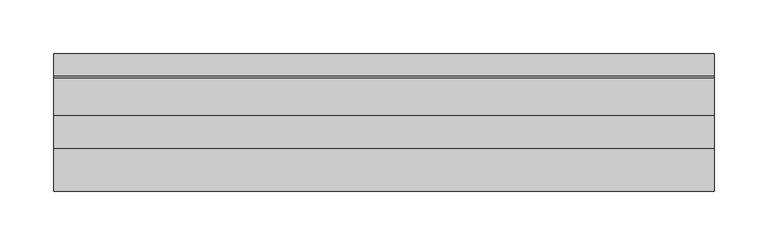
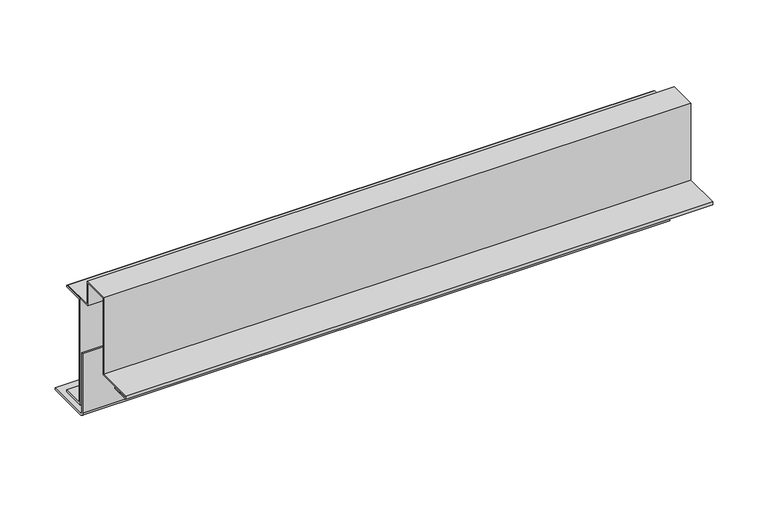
"""IFC4 building model written with IfcOpenShell, lengths in millimetres: proxy geometry, АК7_1 верх Обрамление оконного_дверного проема : АК7_1 верх Обрамление оконного_дверного проема."""

from ifc_helpers import new_model, si_unit, point, frame, frame_2d, origin, place, context, project, spatial, polyline, circle_curve, trimmed, segment, composite_curve, outline, extrude, source, transform, mapped, element, save


def generic_models_ad8da9b4(model_context):
    return source(origin(), model_context, "Body", "SweptSolid", [
        extrude(outline(composite_curve([segment(polyline([(29.8704378, -153.0), (29.8704378, -155.0), (-16.1295622, -155.0)]), True, "CONTINUOUS"), segment(trimmed(circle_curve(frame_2d((-16.1295622, -151.0)), 4.0), [point((-16.1295622, -155.0))], [point((-20.1295622, -151.0))], False, "CARTESIAN"), True, "CONTINUOUS"), segment(polyline([(-20.1295622, -151.0), (-20.1295622, -85.0), (-18.1295622, -85.0), (-18.1295622, -151.0)]), True, "CONTINUOUS"), segment(trimmed(circle_curve(frame_2d((-16.1295622, -151.0)), 2.0), [point((-18.1295622, -151.0))], [point((-16.1295622, -153.0))], True, "CARTESIAN"), True, "CONTINUOUS"), segment(polyline([(-16.1295622, -153.0), (29.8704378, -153.0)]), True, "CONTINUOUS")], self_intersect=False)), frame((0.0, 0.0, 0.0), z_axis=(1.0, 0.0, 0.0), x_axis=(0.0, 1.0, 0.0)), (0.0, 0.0, 1.0), 615.0),
        extrude(outline(polyline([(-16.1295622, -26.5), (8.8704378, -26.5), (8.8704378, -28.5), (-14.1295622, -28.5), (-14.1295622, -142.5), (8.8704378, -142.5), (8.8704378, -144.5), (-16.1295622, -144.5), (-16.1295622, -26.5)])), frame((0.0, 0.0, 0.0), z_axis=(1.0, 0.0, 0.0), x_axis=(0.0, 1.0, 0.0)), (0.0, 0.0, 1.0), 615.0),
        extrude(outline(polyline([(6.9998693, -25.4999617), (6.9998693, -26.4999617), (-29.0001307, -26.4999617), (-29.0001307, -0.9999617), (-57.0001307, -0.9999617), (-57.0001307, -86.0), (-97.0001307, -86.0), (-97.0001307, -87.0000383), (-78.6125377, -87.0000383), (-78.6125377, -88.0000383), (-98.0001307, -88.0000383), (-98.0001307, -85.0), (-58.0001307, -85.0), (-58.0001307, 3.83e-05), (-28.0001307, 3.83e-05), (-28.0001307, -25.4999617), (6.9998693, -25.4999617)])), frame((0.0, 0.0, 0.0), z_axis=(1.0, 0.0, 0.0), x_axis=(0.0, 1.0, 0.0)), (0.0, 0.0, 1.0), 615.0),
    ])


if __name__ == "__main__":
    model = new_model("IFC4")
    model_context = context("Model", 3, world=origin())
    ifc_project = project(units=[si_unit("LENGTHUNIT", "METRE", prefix="MILLI")], contexts=[model_context])
    site = spatial("IfcSite", under=ifc_project)
    building = spatial("IfcBuilding", under=site)
    placement = place(None, origin())
    generic_models_shape = generic_models_ad8da9b4(model_context)
    element("IfcBuildingElementProxy", 1, Name="АК7_1 верх Обрамление оконного_дверного проема : АК7_1 верх Обрамление оконного_дверного проема", ObjectType="АК7_1 верх Обрамление оконного_дверного проема : АК7_1 верх Обрамление оконного_дверного проема", at=placement, inside=building, context=model_context, shape_type="MappedRepresentation", body=[
        mapped(generic_models_shape, transform((0.0, 0.0, 0.0), x_axis=(1.0, 0.0, 0.0), y_axis=(0.0, 1.0, 0.0), z_axis=(0.0, 0.0, 1.0))),
    ])
    save(model, "model.ifc")
